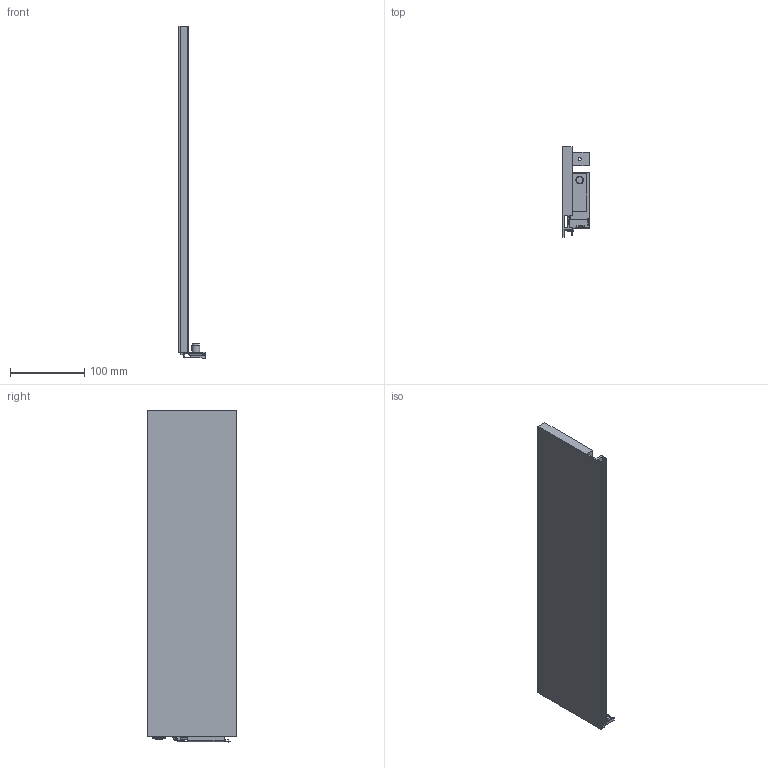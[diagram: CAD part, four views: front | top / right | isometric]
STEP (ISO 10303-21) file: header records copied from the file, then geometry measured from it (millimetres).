
FILE_DESCRIPTION (( 'STEP AP214' ), '1' );
FILE_NAME ('Vionaro_Alu-Zarge_H121_NL450_LI.STEP', '2014-08-18T11:18:53', ( '' ), ( '' ), 'SwSTEP 2.0', 'SolidWorks 2013', '' );
FILE_SCHEMA (( 'AUTOMOTIVE_DESIGN' ));
Length unit declared in the file: millimetre
Products named in the file (1): Vionaro_Alu-Zarge_H121_NL450_LI
Bounding box: 35.61 x 121 x 447.9 mm (x, y, z)
Volume: 585171.8 mm3; surface area: 145943.9 mm2
Topology: 1 solids, 1 shells, 112 faces, 299 edges, 196 vertices
Faces by surface type: plane 88, cylinder 20, cone 4
Entity records: 3491 total; most frequent: CARTESIAN_POINT 614, ORIENTED_EDGE 598, DIRECTION 569, EDGE_CURVE 299, VECTOR 251, LINE 251, VERTEX_POINT 196, AXIS2_PLACEMENT_3D 159
